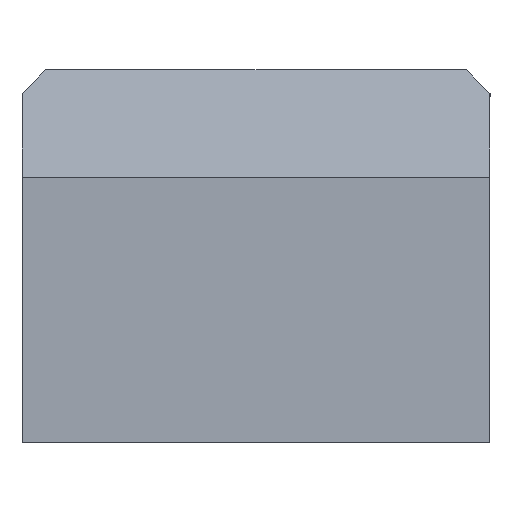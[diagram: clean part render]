
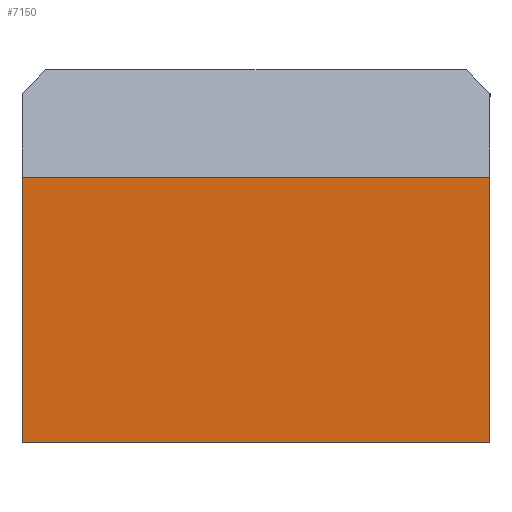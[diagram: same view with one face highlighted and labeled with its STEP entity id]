
A CAD part, left-side view. The second image highlights one B-rep face of the part: STEP entity #7150.
In plain terms, the highlighted planar face has unit normal (-1, 0, 0).
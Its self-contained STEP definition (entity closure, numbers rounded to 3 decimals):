
#2299 = FACE_OUTER_BOUND ( 'NONE', #57845, .T. ) ;
#4764 = CARTESIAN_POINT ( 'NONE',  ( 0., 0., -12. ) ) ;
#4765 = DIRECTION ( 'NONE',  ( 0., 1., 0. ) ) ;
#7150 = ADVANCED_FACE ( 'NONE', ( #2299 ), #49808, .F. ) ;
#7799 = CARTESIAN_POINT ( 'NONE',  ( 0., 49., 15.75 ) ) ;
#7854 = DIRECTION ( 'NONE',  ( 0., -1., 0. ) ) ;
#8506 = CARTESIAN_POINT ( 'NONE',  ( 0., 0., 27. ) ) ;
#8509 = DIRECTION ( 'NONE',  ( 0., 0., -1. ) ) ;
#11576 = LINE ( 'NONE', #71040, #11595 ) ;
#11595 = VECTOR ( 'NONE', #70985, 1000. ) ;
#12005 = LINE ( 'NONE', #4764, #12063 ) ;
#12063 = VECTOR ( 'NONE', #4765, 1000. ) ;
#14743 = ORIENTED_EDGE ( 'NONE', *, *, #66244, .F. ) ;
#16527 = VERTEX_POINT ( 'NONE', #45229 ) ;
#16839 = ORIENTED_EDGE ( 'NONE', *, *, #52065, .F. ) ;
#16918 = ORIENTED_EDGE ( 'NONE', *, *, #52344, .F. ) ;
#16952 = VERTEX_POINT ( 'NONE', #45473 ) ;
#17004 = ORIENTED_EDGE ( 'NONE', *, *, #66407, .F. ) ;
#18563 = VERTEX_POINT ( 'NONE', #42980 ) ;
#18601 = VERTEX_POINT ( 'NONE', #43046 ) ;
#22334 = VECTOR ( 'NONE', #7854, 1000. ) ;
#22345 = LINE ( 'NONE', #7799, #22334 ) ;
#23183 = LINE ( 'NONE', #8506, #23216 ) ;
#23216 = VECTOR ( 'NONE', #8509, 1000. ) ;
#42980 = CARTESIAN_POINT ( 'NONE',  ( 0., 49., -12. ) ) ;
#43046 = CARTESIAN_POINT ( 'NONE',  ( 0., 0., -12. ) ) ;
#45229 = CARTESIAN_POINT ( 'NONE',  ( 0., 49., 15.75 ) ) ;
#45473 = CARTESIAN_POINT ( 'NONE',  ( 0., 0., 15.75 ) ) ;
#49792 = CARTESIAN_POINT ( 'NONE',  ( 0., 0., 27. ) ) ;
#49800 = DIRECTION ( 'NONE',  ( 1., 0., 0. ) ) ;
#49801 = DIRECTION ( 'NONE',  ( 0., 0., -1. ) ) ;
#49808 = PLANE ( 'NONE',  #58630 ) ;
#52065 = EDGE_CURVE ( 'NONE', #18563, #16527, #11576, .T. ) ;
#52344 = EDGE_CURVE ( 'NONE', #18601, #18563, #12005, .T. ) ;
#57845 = EDGE_LOOP ( 'NONE', ( #14743, #16839, #16918, #17004 ) ) ;
#58630 = AXIS2_PLACEMENT_3D ( 'NONE', #49792, #49800, #49801 ) ;
#66244 = EDGE_CURVE ( 'NONE', #16527, #16952, #22345, .T. ) ;
#66407 = EDGE_CURVE ( 'NONE', #16952, #18601, #23183, .T. ) ;
#70985 = DIRECTION ( 'NONE',  ( 0., 0., 1. ) ) ;
#71040 = CARTESIAN_POINT ( 'NONE',  ( 0., 49., -12. ) ) ;
